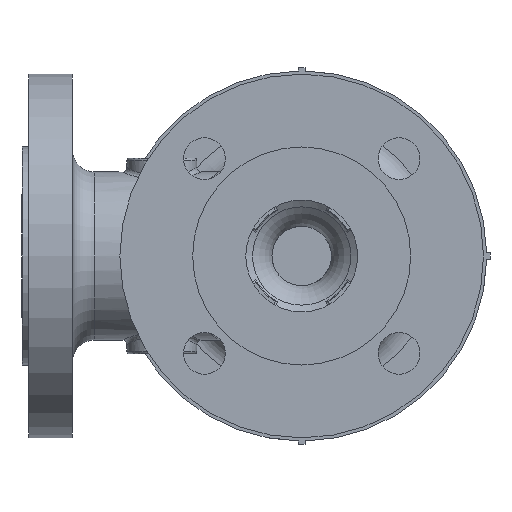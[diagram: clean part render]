
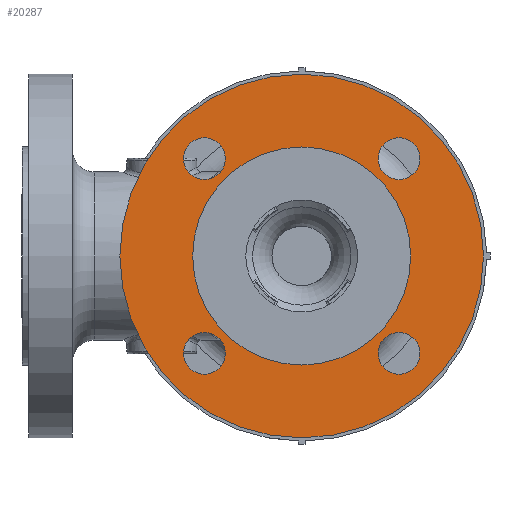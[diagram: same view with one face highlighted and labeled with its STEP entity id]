
A CAD part, front view. The second image highlights one B-rep face of the part: STEP entity #20287.
In plain terms, the highlighted planar face has unit normal (0, -1, 0).
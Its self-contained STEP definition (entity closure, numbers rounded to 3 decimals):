
#606=FACE_BOUND('',#4320,.T.);
#607=FACE_BOUND('',#4321,.T.);
#608=FACE_BOUND('',#4322,.T.);
#609=FACE_BOUND('',#4323,.T.);
#610=FACE_BOUND('',#4324,.T.);
#1143=PLANE('',#21979);
#3067=FACE_OUTER_BOUND('',#4319,.T.);
#4319=EDGE_LOOP('',(#17467));
#4320=EDGE_LOOP('',(#17468));
#4321=EDGE_LOOP('',(#17469));
#4322=EDGE_LOOP('',(#17470));
#4323=EDGE_LOOP('',(#17471));
#4324=EDGE_LOOP('',(#17472));
#7825=CIRCLE('',#21909,9.5);
#7827=CIRCLE('',#21912,9.5);
#7829=CIRCLE('',#21915,9.5);
#7831=CIRCLE('',#21918,9.5);
#7859=CIRCLE('',#21978,49.5);
#7860=CIRCLE('',#21980,82.55);
#9469=VERTEX_POINT('',#36599);
#9471=VERTEX_POINT('',#36605);
#9473=VERTEX_POINT('',#36611);
#9475=VERTEX_POINT('',#36617);
#9523=VERTEX_POINT('',#36788);
#9524=VERTEX_POINT('',#36792);
#12211=EDGE_CURVE('',#9469,#9469,#7825,.T.);
#12214=EDGE_CURVE('',#9471,#9471,#7827,.T.);
#12217=EDGE_CURVE('',#9473,#9473,#7829,.T.);
#12220=EDGE_CURVE('',#9475,#9475,#7831,.T.);
#12287=EDGE_CURVE('',#9523,#9523,#7859,.T.);
#12289=EDGE_CURVE('',#9524,#9524,#7860,.T.);
#17467=ORIENTED_EDGE('',*,*,#12289,.F.);
#17468=ORIENTED_EDGE('',*,*,#12211,.T.);
#17469=ORIENTED_EDGE('',*,*,#12214,.T.);
#17470=ORIENTED_EDGE('',*,*,#12217,.T.);
#17471=ORIENTED_EDGE('',*,*,#12220,.T.);
#17472=ORIENTED_EDGE('',*,*,#12287,.F.);
#20287=ADVANCED_FACE('',(#3067,#606,#607,#608,#609,#610),#1143,.F.);
#21909=AXIS2_PLACEMENT_3D('',#36600,#25893,#25894);
#21912=AXIS2_PLACEMENT_3D('',#36606,#25900,#25901);
#21915=AXIS2_PLACEMENT_3D('',#36612,#25907,#25908);
#21918=AXIS2_PLACEMENT_3D('',#36618,#25914,#25915);
#21978=AXIS2_PLACEMENT_3D('',#36789,#26059,#26060);
#21979=AXIS2_PLACEMENT_3D('',#36791,#26062,#26063);
#21980=AXIS2_PLACEMENT_3D('',#36793,#26064,#26065);
#25893=DIRECTION('center_axis',(0.,1.,0.));
#25894=DIRECTION('ref_axis',(0.,0.,
-1.));
#25900=DIRECTION('center_axis',(0.,1.,0.));
#25901=DIRECTION('ref_axis',(1.,0.,0.));
#25907=DIRECTION('center_axis',(0.,1.,0.));
#25908=DIRECTION('ref_axis',(0.,0.,
1.));
#25914=DIRECTION('center_axis',(0.,1.,0.));
#25915=DIRECTION('ref_axis',(-1.,0.,0.));
#26059=DIRECTION('center_axis',(0.,-1.,0.));
#26060=DIRECTION('ref_axis',(1.,0.,0.));
#26062=DIRECTION('center_axis',(0.,1.,0.));
#26063=DIRECTION('ref_axis',(0.,0.,
-1.));
#26064=DIRECTION('center_axis',(0.,1.,0.));
#26065=DIRECTION('ref_axis',(1.,0.,0.));
#36599=CARTESIAN_POINT('',(44.194,-85.9,53.694));
#36600=CARTESIAN_POINT('Origin',(44.194,-85.9,44.194));
#36605=CARTESIAN_POINT('',(-53.694,-85.9,44.194));
#36606=CARTESIAN_POINT('Origin',(-44.194,-85.9,44.194));
#36611=CARTESIAN_POINT('',(-44.194,-85.9,-53.694));
#36612=CARTESIAN_POINT('Origin',(-44.194,-85.9,-44.194));
#36617=CARTESIAN_POINT('',(53.694,-85.9,-44.194));
#36618=CARTESIAN_POINT('Origin',(44.194,-85.9,-44.194));
#36788=CARTESIAN_POINT('',(-49.5,-85.9,0.));
#36789=CARTESIAN_POINT('Origin',(0.,-85.9,
0.));
#36791=CARTESIAN_POINT('Origin',(0.,-85.9,
0.));
#36792=CARTESIAN_POINT('',(-82.55,-85.9,0.));
#36793=CARTESIAN_POINT('Origin',(0.,-85.9,
0.));
